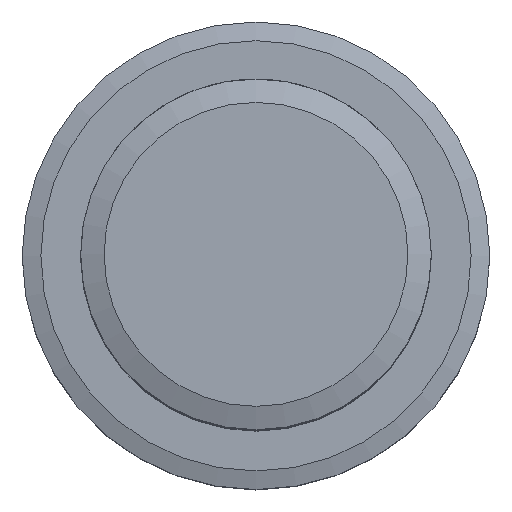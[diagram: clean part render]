
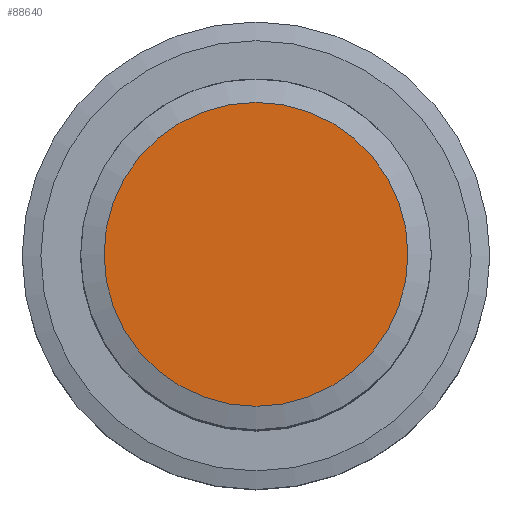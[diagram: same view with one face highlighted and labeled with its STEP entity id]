
A CAD part, top view. The second image highlights one B-rep face of the part: STEP entity #88640.
In plain terms, the highlighted planar face has unit normal (0, 0, 1).
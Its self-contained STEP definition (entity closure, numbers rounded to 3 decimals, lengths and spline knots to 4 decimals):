
#88458 = VERTEX_POINT('',#88459);
#88459 = CARTESIAN_POINT('',(6.5,0.,45.));
#88465 = EDGE_CURVE('',#88458,#88458,#88466,.T.);
#88466 = CIRCLE('',#88467,6.5);
#88467 = AXIS2_PLACEMENT_3D('',#88468,#88469,#88470);
#88468 = CARTESIAN_POINT('',(0.,0.,45.));
#88469 = DIRECTION('',(0.,0.,1.));
#88470 = DIRECTION('',(1.,0.,0.));
#88640 = ADVANCED_FACE('',(#88641),#88644,.T.);
#88641 = FACE_BOUND('',#88642,.T.);
#88642 = EDGE_LOOP('',(#88643));
#88643 = ORIENTED_EDGE('',*,*,#88465,.T.);
#88644 = PLANE('',#88645);
#88645 = AXIS2_PLACEMENT_3D('',#88646,#88647,#88648);
#88646 = CARTESIAN_POINT('',(0.,0.,45.));
#88647 = DIRECTION('',(0.,0.,1.));
#88648 = DIRECTION('',(1.,0.,0.));
